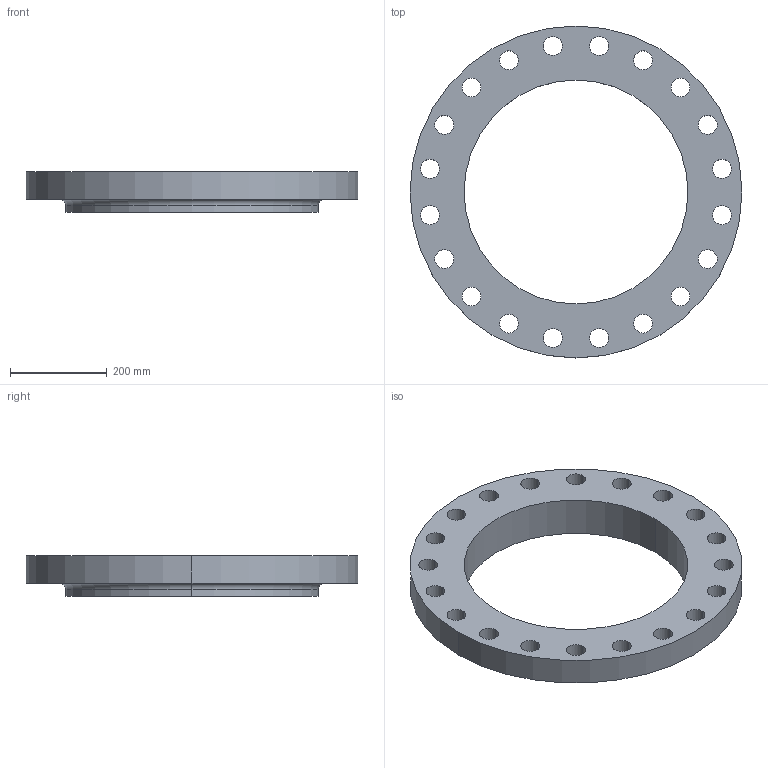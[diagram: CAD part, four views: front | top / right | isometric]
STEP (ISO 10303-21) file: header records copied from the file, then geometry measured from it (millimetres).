
FILE_DESCRIPTION (( 'STEP AP214' ), '1' );
FILE_NAME ('PN40 DN450 Type 12 - Type A Face.STEP', '2018-12-29T02:40:03', ( '' ), ( '' ), 'SwSTEP 2.0', 'SolidWorks 2019', '' );
FILE_SCHEMA (( 'AUTOMOTIVE_DESIGN' ));
Length unit declared in the file: millimetre
Products named in the file (1): PN40 DN450 Type 12 - Type A Face
Bounding box: 685 x 685 x 84 mm (x, y, z)
Volume: 11392078.2 mm3; surface area: 774149.2 mm2
Topology: 1 solids, 1 shells, 51 faces, 142 edges, 94 vertices
Faces by surface type: cylinder 46, plane 3, torus 2
Entity records: 1814 total; most frequent: DIRECTION 342, CARTESIAN_POINT 288, ORIENTED_EDGE 284, AXIS2_PLACEMENT_3D 148, EDGE_CURVE 142, CIRCLE 96, VERTEX_POINT 94, EDGE_LOOP 94
